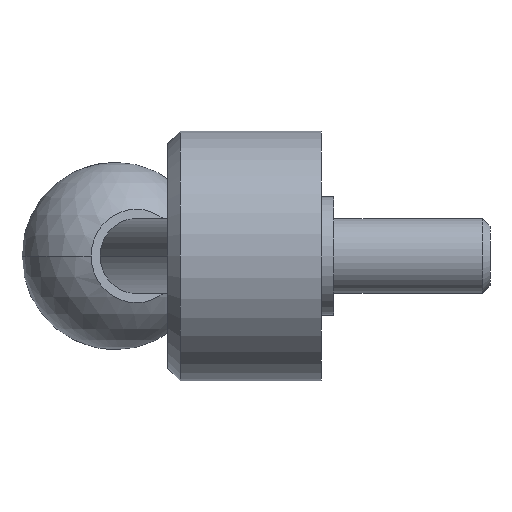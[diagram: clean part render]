
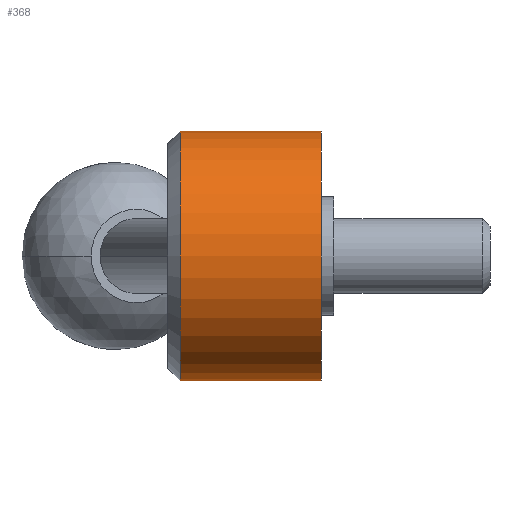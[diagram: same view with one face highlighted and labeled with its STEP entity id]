
A CAD part, left-side view. The second image highlights one B-rep face of the part: STEP entity #368.
In plain terms, the highlighted cylindrical face has radius 20 mm (diameter 40 mm), a partial arc.
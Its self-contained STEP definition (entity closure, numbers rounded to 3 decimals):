
#43 = EDGE_CURVE ( 'NONE', #611, #591, #815, .T. ) ;
#44 = ORIENTED_EDGE ( 'NONE', *, *, #274, .T. ) ;
#53 = AXIS2_PLACEMENT_3D ( 'NONE', #369, #307, #92 ) ;
#73 = CARTESIAN_POINT ( 'NONE',  ( 0., 22.6, 20. ) ) ;
#92 = DIRECTION ( 'NONE',  ( 0., 0., -1. ) ) ;
#107 = CYLINDRICAL_SURFACE ( 'NONE', #678, 20. ) ;
#141 = CARTESIAN_POINT ( 'NONE',  ( 0., 22.6, 0. ) ) ;
#151 = AXIS2_PLACEMENT_3D ( 'NONE', #141, #822, #756 ) ;
#160 = CARTESIAN_POINT ( 'NONE',  ( 0., 0., 0. ) ) ;
#177 = DIRECTION ( 'NONE',  ( 0., -1., 0. ) ) ;
#180 = VECTOR ( 'NONE', #683, 1000. ) ;
#204 = ORIENTED_EDGE ( 'NONE', *, *, #551, .F. ) ;
#210 = CARTESIAN_POINT ( 'NONE',  ( 0., 0., 20. ) ) ;
#244 = DIRECTION ( 'NONE',  ( 0., 0., -1. ) ) ;
#267 = CARTESIAN_POINT ( 'NONE',  ( 0., 22.6, -20. ) ) ;
#274 = EDGE_CURVE ( 'NONE', #675, #611, #287, .T. ) ;
#282 = EDGE_LOOP ( 'NONE', ( #204, #44, #355, #722 ) ) ;
#287 = CIRCLE ( 'NONE', #151, 20. ) ;
#307 = DIRECTION ( 'NONE',  ( 0., -1., 0. ) ) ;
#355 = ORIENTED_EDGE ( 'NONE', *, *, #43, .T. ) ;
#360 = CARTESIAN_POINT ( 'NONE',  ( 0., 0., 20. ) ) ;
#368 = ADVANCED_FACE ( 'NONE', ( #776 ), #107, .T. ) ;
#369 = CARTESIAN_POINT ( 'NONE',  ( 0., 0., 0. ) ) ;
#444 = CIRCLE ( 'NONE', #53, 20. ) ;
#551 = EDGE_CURVE ( 'NONE', #675, #629, #686, .T. ) ;
#591 = VERTEX_POINT ( 'NONE', #594 ) ;
#594 = CARTESIAN_POINT ( 'NONE',  ( 0., 0., -20. ) ) ;
#611 = VERTEX_POINT ( 'NONE', #267 ) ;
#629 = VERTEX_POINT ( 'NONE', #210 ) ;
#675 = VERTEX_POINT ( 'NONE', #73 ) ;
#678 = AXIS2_PLACEMENT_3D ( 'NONE', #160, #177, #244 ) ;
#683 = DIRECTION ( 'NONE',  ( 0., -1., 0. ) ) ;
#686 = LINE ( 'NONE', #360, #180 ) ;
#722 = ORIENTED_EDGE ( 'NONE', *, *, #809, .F. ) ;
#752 = VECTOR ( 'NONE', #810, 1000. ) ;
#756 = DIRECTION ( 'NONE',  ( 0., 0., 1. ) ) ;
#776 = FACE_OUTER_BOUND ( 'NONE', #282, .T. ) ;
#809 = EDGE_CURVE ( 'NONE', #629, #591, #444, .T. ) ;
#810 = DIRECTION ( 'NONE',  ( 0., -1., 0. ) ) ;
#815 = LINE ( 'NONE', #873, #752 ) ;
#822 = DIRECTION ( 'NONE',  ( 0., -1., 0. ) ) ;
#873 = CARTESIAN_POINT ( 'NONE',  ( 0., 0., -20. ) ) ;
